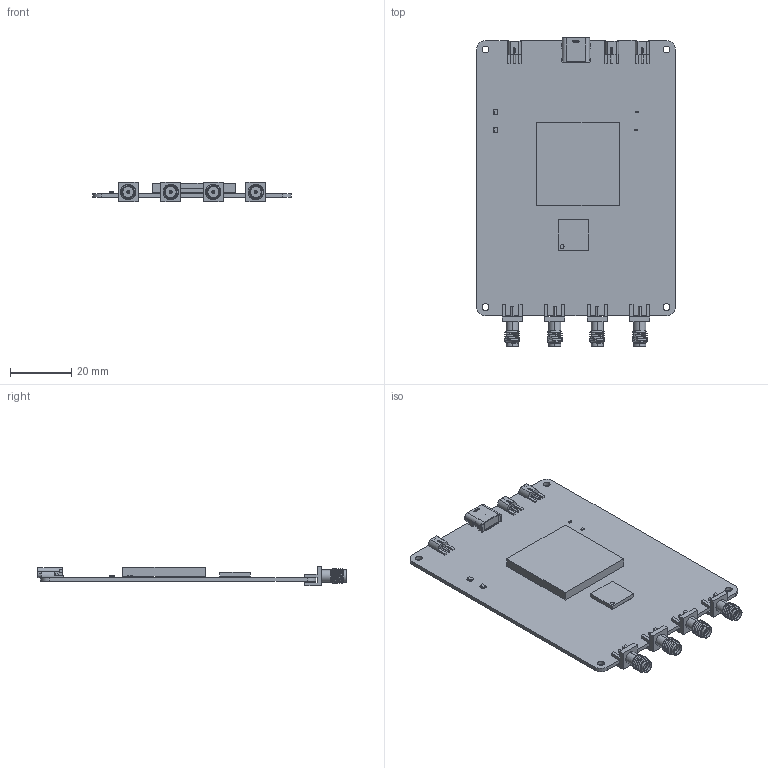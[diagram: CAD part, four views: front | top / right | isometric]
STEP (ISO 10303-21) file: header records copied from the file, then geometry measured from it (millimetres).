
FILE_DESCRIPTION(('Open CASCADE Model'),'2;1');
FILE_NAME('Open CASCADE Shape Model','2025-11-03T20:13:52',('Author'),( 'Open CASCADE'),'Open CASCADE STEP processor 7.5','Open CASCADE 7.5' ,'Unknown');
FILE_SCHEMA(('AUTOMOTIVE_DESIGN { 1 0 10303 214 1 1 1 1 }'));
Length unit declared in the file: millimetre
Products named in the file (58): PCB; Board; Open CASCADE STEP translator 7.5 2.1.1; LED2; LEDX2; LED-SMD_4P-L1.6-W1.5_F.1615.00003-P4-1615R1G1TA2-06T-001~LED-SMD_
4P-L1.6-W1.5_F.1615.00003-P4-1615R1G1TA2-06T-001~NGzz010; LED-SMD_4P-L1.6-W1.5_F.1615.00003-P4-1615R1G1TA2-06T-001~LED-SMD_
4P-L1.6-W1.5_F.1615.00003-P4-1615R1G1TA2-06T-001~NGzz; LED-SMD_4P-L1.6-W1.5_F.1615.00003-P4-1615R1G1TA2-06T-001~LED-SMD_
4P-L1.6-W1.5_F.1615.00003-P4-1615R1G1TA2-06T-001~NGzz001; LED-SMD_4P-L1.6-W1.5_F.1615.00003-P4-1615R1G1TA2-06T-001~LED-SMD_
4P-L1.6-W1.5_F.1615.00003-P4-1615R1G1TA2-06T-001~NGzz002; LED-SMD_4P-L1.6-W1.5_F.1615.00003-P4-1615R1G1TA2-06T-001~LED-SMD_
4P-L1.6-W1.5_F.1615.00003-P4-1615R1G1TA2-06T-001~NGzz003; LED-SMD_4P-L1.6-W1.5_F.1615.00003-P4-1615R1G1TA2-06T-001~LED-SMD_
4P-L1.6-W1.5_F.1615.00003-P4-1615R1G1TA2-06T-001~NGzz004; LED-SMD_4P-L1.6-W1.5_F.1615.00003-P4-1615R1G1TA2-06T-001~LED-SMD_
4P-L1.6-W1.5_F.1615.00003-P4-1615R1G1TA2-06T-001~NGzz005; LED-SMD_4P-L1.6-W1.5_F.1615.00003-P4-1615R1G1TA2-06T-001~LED-SMD_
4P-L1.6-W1.5_F.1615.00003-P4-1615R1G1TA2-06T-001~NGzz006; LED-SMD_4P-L1.6-W1.5_F.1615.00003-P4-1615R1G1TA2-06T-001~LED-SMD_
4P-L1.6-W1.5_F.1615.00003-P4-1615R1G1TA2-06T-001~NGzz007; LED-SMD_4P-L1.6-W1.5_F.1615.00003-P4-1615R1G1TA2-06T-001~LED-SMD_
4P-L1.6-W1.5_F.1615.00003-P4-1615R1G1TA2-06T-001~NGzz008; LED-SMD_4P-L1.6-W1.5_F.1615.00003-P4-1615R1G1TA2-06T-001~LED-SMD_
4P-L1.6-W1.5_F.1615.00003-P4-1615R1G1TA2-06T-001~NGzz009; U7; 6312438528; Extruded; LED1; U18; MMCX; SMA-SMD_73415-0963~SMA-SMD_73415-0963~VM4T; U16; U15; USB1; TYPE-C-24P-QT; USB-C-SMD_TYPE-C-24P-QT~USB-C-SMD_TYPE-C-24P-QT~8yyD015; USB-C-SMD_TYPE-C-24P-QT~USB-C-SMD_TYPE-C-24P-QT~8yyD; USB-C-SMD_TYPE-C-24P-QT~USB-C-SMD_TYPE-C-24P-QT~8yyD001; USB-C-SMD_TYPE-C-24P-QT~USB-C-SMD_TYPE-C-24P-QT~8yyD002; USB-C-SMD_TYPE-C-24P-QT~USB-C-SMD_TYPE-C-24P-QT~8yyD003; USB-C-SMD_TYPE-C-24P-QT~USB-C-SMD_TYPE-C-24P-QT~8yyD004; USB-C-SMD_TYPE-C-24P-QT~USB-C-SMD_TYPE-C-24P-QT~8yyD005; USB-C-SMD_TYPE-C-24P-QT~USB-C-SMD_TYPE-C-24P-QT~8yyD006; USB-C-SMD_TYPE-C-24P-QT~USB-C-SMD_TYPE-C-24P-QT~8yyD007; USB-C-SMD_TYPE-C-24P-QT~USB-C-SMD_TYPE-C-24P-QT~8yyD008; USB-C-SMD_TYPE-C-24P-QT~USB-C-SMD_TYPE-C-24P-QT~8yyD009; USB-C-SMD_TYPE-C-24P-QT~USB-C-SMD_TYPE-C-24P-QT~8yyD010; USB-C-SMD_TYPE-C-24P-QT~USB-C-SMD_TYPE-C-24P-QT~8yyD011 ...
Assembly tree (63 placements, depth 5):
  PCB
    Board
      Open CASCADE STEP translator 7.5 2.1.1
    LED2
      LEDX2
        LED-SMD_4P-L1.6-W1.5_F.1615.00003-P4-1615R1G1TA2-06T-001~LED-SMD_
4P-L1.6-W1.5_F.1615.00003-P4-1615R1G1TA2-06T-001~NGzz010
          LED-SMD_4P-L1.6-W1.5_F.1615.00003-P4-1615R1G1TA2-06T-001~LED-SMD_
4P-L1.6-W1.5_F.1615.00003-P4-1615R1G1TA2-06T-001~NGzz
          LED-SMD_4P-L1.6-W1.5_F.1615.00003-P4-1615R1G1TA2-06T-001~LED-SMD_
4P-L1.6-W1.5_F.1615.00003-P4-1615R1G1TA2-06T-001~NGzz001
          LED-SMD_4P-L1.6-W1.5_F.1615.00003-P4-1615R1G1TA2-06T-001~LED-SMD_
4P-L1.6-W1.5_F.1615.00003-P4-1615R1G1TA2-06T-001~NGzz002
          LED-SMD_4P-L1.6-W1.5_F.1615.00003-P4-1615R1G1TA2-06T-001~LED-SMD_
4P-L1.6-W1.5_F.1615.00003-P4-1615R1G1TA2-06T-001~NGzz003
          LED-SMD_4P-L1.6-W1.5_F.1615.00003-P4-1615R1G1TA2-06T-001~LED-SMD_
4P-L1.6-W1.5_F.1615.00003-P4-1615R1G1TA2-06T-001~NGzz004
          LED-SMD_4P-L1.6-W1.5_F.1615.00003-P4-1615R1G1TA2-06T-001~LED-SMD_
4P-L1.6-W1.5_F.1615.00003-P4-1615R1G1TA2-06T-001~NGzz005
          LED-SMD_4P-L1.6-W1.5_F.1615.00003-P4-1615R1G1TA2-06T-001~LED-SMD_
4P-L1.6-W1.5_F.1615.00003-P4-1615R1G1TA2-06T-001~NGzz006
          LED-SMD_4P-L1.6-W1.5_F.1615.00003-P4-1615R1G1TA2-06T-001~LED-SMD_
4P-L1.6-W1.5_F.1615.00003-P4-1615R1G1TA2-06T-001~NGzz007
          LED-SMD_4P-L1.6-W1.5_F.1615.00003-P4-1615R1G1TA2-06T-001~LED-SMD_
4P-L1.6-W1.5_F.1615.00003-P4-1615R1G1TA2-06T-001~NGzz008
          LED-SMD_4P-L1.6-W1.5_F.1615.00003-P4-1615R1G1TA2-06T-001~LED-SMD_
4P-L1.6-W1.5_F.1615.00003-P4-1615R1G1TA2-06T-001~NGzz009
    U7
      6312438528
        Extruded
    LED1
      LEDX2
        LED-SMD_4P-L1.6-W1.5_F.1615.00003-P4-1615R1G1TA2-06T-001~LED-SMD_
4P-L1.6-W1.5_F.1615.00003-P4-1615R1G1TA2-06T-001~NGzz010
          LED-SMD_4P-L1.6-W1.5_F.1615.00003-P4-1615R1G1TA2-06T-001~LED-SMD_
4P-L1.6-W1.5_F.1615.00003-P4-1615R1G1TA2-06T-001~NGzz
          LED-SMD_4P-L1.6-W1.5_F.1615.00003-P4-1615R1G1TA2-06T-001~LED-SMD_
4P-L1.6-W1.5_F.1615.00003-P4-1615R1G1TA2-06T-001~NGzz001
          LED-SMD_4P-L1.6-W1.5_F.1615.00003-P4-1615R1G1TA2-06T-001~LED-SMD_
4P-L1.6-W1.5_F.1615.00003-P4-1615R1G1TA2-06T-001~NGzz002
          LED-SMD_4P-L1.6-W1.5_F.1615.00003-P4-1615R1G1TA2-06T-001~LED-SMD_
4P-L1.6-W1.5_F.1615.00003-P4-1615R1G1TA2-06T-001~NGzz003
          LED-SMD_4P-L1.6-W1.5_F.1615.00003-P4-1615R1G1TA2-06T-001~LED-SMD_
4P-L1.6-W1.5_F.1615.00003-P4-1615R1G1TA2-06T-001~NGzz004
          LED-SMD_4P-L1.6-W1.5_F.1615.00003-P4-1615R1G1TA2-06T-001~LED-SMD_
4P-L1.6-W1.5_F.1615.00003-P4-1615R1G1TA2-06T-001~NGzz005
          LED-SMD_4P-L1.6-W1.5_F.1615.00003-P4-1615R1G1TA2-06T-001~LED-SMD_
4P-L1.6-W1.5_F.1615.00003-P4-1615R1G1TA2-06T-001~NGzz006
          LED-SMD_4P-L1.6-W1.5_F.1615.00003-P4-1615R1G1TA2-06T-001~LED-SMD_
4P-L1.6-W1.5_F.1615.00003-P4-1615R1G1TA2-06T-001~NGzz007
          LED-SMD_4P-L1.6-W1.5_F.1615.00003-P4-1615R1G1TA2-06T-001~LED-SMD_
4P-L1.6-W1.5_F.1615.00003-P4-1615R1G1TA2-06T-001~NGzz008
          LED-SMD_4P-L1.6-W1.5_F.1615.00003-P4-1615R1G1TA2-06T-001~LED-SMD_
4P-L1.6-W1.5_F.1615.00003-P4-1615R1G1TA2-06T-001~NGzz009
    U18
      MMCX
        SMA-SMD_73415-0963~SMA-SMD_73415-0963~VM4T
    U16
      MMCX
        SMA-SMD_73415-0963~SMA-SMD_73415-0963~VM4T
    U15
      MMCX
        SMA-SMD_73415-0963~SMA-SMD_73415-0963~VM4T
    USB1
      TYPE-C-24P-QT
        USB-C-SMD_TYPE-C-24P-QT~USB-C-SMD_TYPE-C-24P-QT~8yyD015
          USB-C-SMD_TYPE-C-24P-QT~USB-C-SMD_TYPE-C-24P-QT~8yyD
          USB-C-SMD_TYPE-C-24P-QT~USB-C-SMD_TYPE-C-24P-QT~8yyD001
          USB-C-SMD_TYPE-C-24P-QT~USB-C-SMD_TYPE-C-24P-QT~8yyD002
          USB-C-SMD_TYPE-C-24P-QT~USB-C-SMD_TYPE-C-24P-QT~8yyD003
          USB-C-SMD_TYPE-C-24P-QT~USB-C-SMD_TYPE-C-24P-QT~8yyD004
          USB-C-SMD_TYPE-C-24P-QT~USB-C-SMD_TYPE-C-24P-QT~8yyD005
          USB-C-SMD_TYPE-C-24P-QT~USB-C-SMD_TYPE-C-24P-QT~8yyD006
          USB-C-SMD_TYPE-C-24P-QT~USB-C-SMD_TYPE-C-24P-QT~8yyD007
          USB-C-SMD_TYPE-C-24P-QT~USB-C-SMD_TYPE-C-24P-QT~8yyD008
          USB-C-SMD_TYPE-C-24P-QT~USB-C-SMD_TYPE-C-24P-QT~8yyD009
          USB-C-SMD_TYPE-C-24P-QT~USB-C-SMD_TYPE-C-24P-QT~8yyD010
          USB-C-SMD_TYPE-C-24P-QT~USB-C-SMD_TYPE-C-24P-QT~8yyD011
          USB-C-SMD_TYPE-C-24P-QT~USB-C-SMD_TYPE-C-24P-QT~8yyD012
          USB-C-SMD_TYPE-C-24P-QT~USB-C-SMD_TYPE-C-24P-QT~8yyD013
          USB-C-SMD_TYPE-C-24P-QT~USB-C-SMD_TYPE-C-24P-QT~8yyD014
    U11
Bounding box: 64.75 x 100.52 x 6.51 mm (x, y, z)
Volume: 10460.3 mm3; surface area: 17429.4 mm2
Topology: 255 solids, 255 shells, 3136 faces, 8234 edges, 5437 vertices
Faces by surface type: plane 1762, bspline 726, cylinder 418, sphere 152, cone 78
Full cylindrical faces by diameter (mm): 1.25 x1, 2.2 x4
Entity records: 62328 total; most frequent: CARTESIAN_POINT 15074, ORIENTED_EDGE 8492, DIRECTION 6863, EDGE_CURVE 4246, LINE 3063, VECTOR 3063, VERTEX_POINT 2949, AXIS2_PLACEMENT_3D 1900
